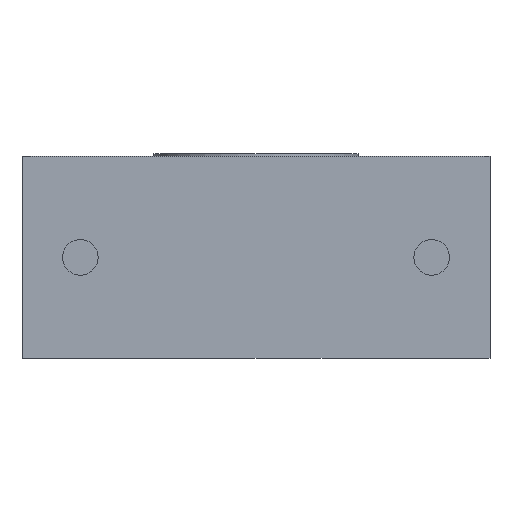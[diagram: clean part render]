
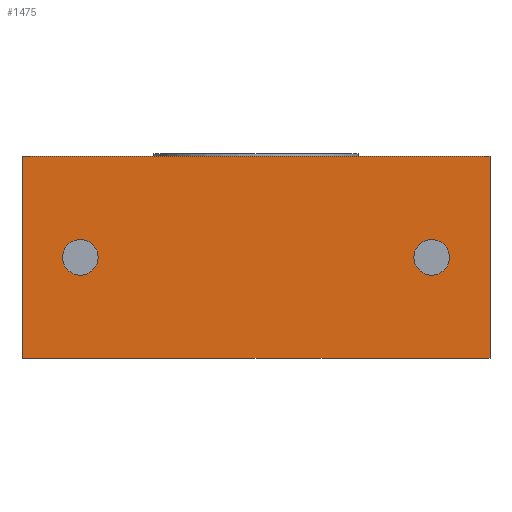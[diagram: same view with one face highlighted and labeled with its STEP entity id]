
A CAD part, front view. The second image highlights one B-rep face of the part: STEP entity #1475.
In plain terms, the highlighted planar face has unit normal (0, -1, 0).
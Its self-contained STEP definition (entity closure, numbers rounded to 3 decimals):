
#92=FACE_BOUND('',#265,.T.);
#93=FACE_BOUND('',#266,.T.);
#121=PLANE('',#1688);
#175=FACE_OUTER_BOUND('',#264,.T.);
#264=EDGE_LOOP('',(#1082,#1083,#1084,#1085));
#265=EDGE_LOOP('',(#1086,#1087));
#266=EDGE_LOOP('',(#1088,#1089));
#366=LINE('',#2426,#446);
#373=LINE('',#2442,#453);
#382=LINE('',#2477,#462);
#383=LINE('',#2479,#463);
#446=VECTOR('',#1907,10.);
#453=VECTOR('',#1920,10.);
#462=VECTOR('',#1963,10.);
#463=VECTOR('',#1966,10.);
#518=CIRCLE('',#1635,4.188);
#519=CIRCLE('',#1636,4.188);
#522=CIRCLE('',#1641,4.188);
#523=CIRCLE('',#1642,4.188);
#606=VERTEX_POINT('',#2355);
#607=VERTEX_POINT('',#2356);
#610=VERTEX_POINT('',#2366);
#611=VERTEX_POINT('',#2367);
#633=VERTEX_POINT('',#2423);
#634=VERTEX_POINT('',#2425);
#639=VERTEX_POINT('',#2439);
#640=VERTEX_POINT('',#2441);
#753=EDGE_CURVE('',#606,#607,#518,.T.);
#754=EDGE_CURVE('',#607,#606,#519,.T.);
#758=EDGE_CURVE('',#610,#611,#522,.T.);
#759=EDGE_CURVE('',#611,#610,#523,.T.);
#786=EDGE_CURVE('',#634,#633,#366,.T.);
#794=EDGE_CURVE('',#640,#639,#373,.T.);
#813=EDGE_CURVE('',#633,#640,#382,.T.);
#814=EDGE_CURVE('',#639,#634,#383,.T.);
#1082=ORIENTED_EDGE('',*,*,#813,.T.);
#1083=ORIENTED_EDGE('',*,*,#794,.T.);
#1084=ORIENTED_EDGE('',*,*,#814,.T.);
#1085=ORIENTED_EDGE('',*,*,#786,.T.);
#1086=ORIENTED_EDGE('',*,*,#753,.T.);
#1087=ORIENTED_EDGE('',*,*,#754,.T.);
#1088=ORIENTED_EDGE('',*,*,#758,.T.);
#1089=ORIENTED_EDGE('',*,*,#759,.T.);
#1475=ADVANCED_FACE('',(#175,#92,#93),#121,.F.);
#1635=AXIS2_PLACEMENT_3D('',#2357,#1833,#1834);
#1636=AXIS2_PLACEMENT_3D('',#2358,#1835,#1836);
#1641=AXIS2_PLACEMENT_3D('',#2368,#1846,#1847);
#1642=AXIS2_PLACEMENT_3D('',#2369,#1848,#1849);
#1688=AXIS2_PLACEMENT_3D('',#2480,#1967,#1968);
#1833=DIRECTION('center_axis',(0.,1.,0.));
#1834=DIRECTION('ref_axis',(-1.,0.,0.));
#1835=DIRECTION('center_axis',(0.,1.,0.));
#1836=DIRECTION('ref_axis',(-1.,0.,0.));
#1846=DIRECTION('center_axis',(0.,1.,0.));
#1847=DIRECTION('ref_axis',(-1.,0.,0.));
#1848=DIRECTION('center_axis',(0.,1.,0.));
#1849=DIRECTION('ref_axis',(-1.,0.,0.));
#1907=DIRECTION('',(1.,0.,0.));
#1920=DIRECTION('',(-1.,0.,0.));
#1963=DIRECTION('',(0.,0.,1.));
#1966=DIRECTION('',(0.,0.,-1.));
#1967=DIRECTION('center_axis',(0.,1.,0.));
#1968=DIRECTION('ref_axis',(0.,0.,1.));
#2355=CARTESIAN_POINT('',(-45.488,-47.6,0.));
#2356=CARTESIAN_POINT('',(-37.112,-47.6,0.));
#2357=CARTESIAN_POINT('Origin',(-41.3,-47.6,0.));
#2358=CARTESIAN_POINT('Origin',(-41.3,-47.6,0.));
#2366=CARTESIAN_POINT('',(37.112,-47.6,0.));
#2367=CARTESIAN_POINT('',(45.488,-47.6,0.));
#2368=CARTESIAN_POINT('Origin',(41.3,-47.6,0.));
#2369=CARTESIAN_POINT('Origin',(41.3,-47.6,0.));
#2423=CARTESIAN_POINT('',(55.,-47.6,-23.75));
#2425=CARTESIAN_POINT('',(-55.,-47.6,-23.75));
#2426=CARTESIAN_POINT('',(27.5,-47.6,-23.75));
#2439=CARTESIAN_POINT('',(-55.,-47.6,23.75));
#2441=CARTESIAN_POINT('',(55.,-47.6,23.75));
#2442=CARTESIAN_POINT('',(-27.5,-47.6,23.75));
#2477=CARTESIAN_POINT('',(55.,-47.6,11.875));
#2479=CARTESIAN_POINT('',(-55.,-47.6,-11.875));
#2480=CARTESIAN_POINT('Origin',(0.,-47.6,0.));
